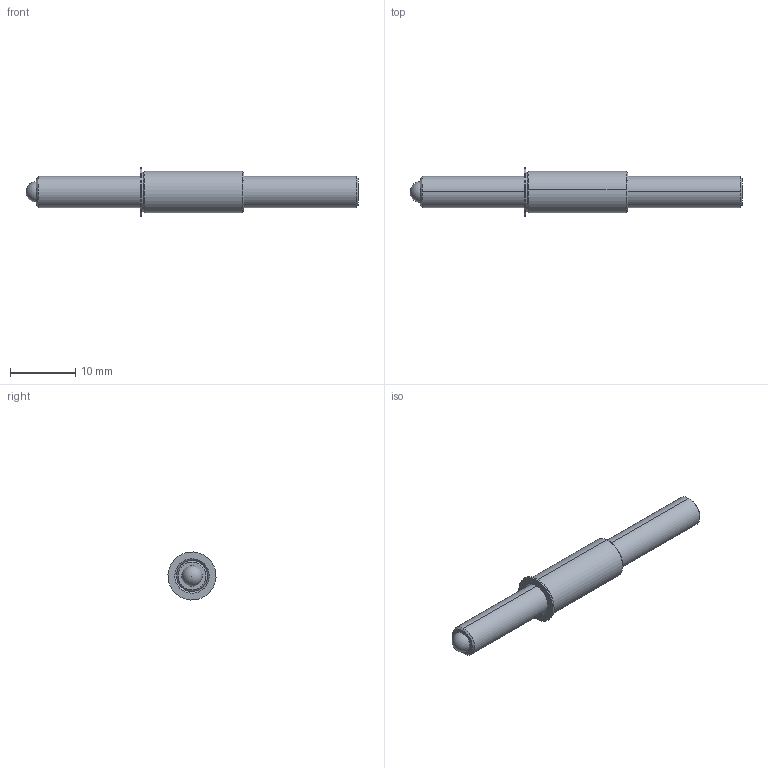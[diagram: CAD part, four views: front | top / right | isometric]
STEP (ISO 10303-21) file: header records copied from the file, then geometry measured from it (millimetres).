
FILE_DESCRIPTION (( 'STEP AP214' ), '1' );
FILE_NAME ('TSB187-100-2000_625.STEP', '2013-03-13T13:38:19', ( 'workpc' ), ( 'Microsoft' ), 'SwSTEP 2.0', 'SolidWorks 2013', '' );
FILE_SCHEMA (( 'AUTOMOTIVE_DESIGN' ));
Length unit declared in the file: inch
Products named in the file (1): TSB187-100-2000_625
Bounding box: 50.8 x 7.34 x 7.34 mm (x, y, z)
Surface area: 1172.7 mm2 (no closed solid volume)
Topology: 0 solids, 3 shells, 33 faces, 77 edges, 49 vertices
Faces by surface type: cone 12, plane 11, cylinder 8, sphere 2
Entity records: 1358 total; most frequent: DIRECTION 174, CARTESIAN_POINT 152, ORIENTED_EDGE 132, EDGE_CURVE 72, AXIS2_PLACEMENT_3D 68, VERTEX_POINT 46, VECTOR 38, LINE 38
